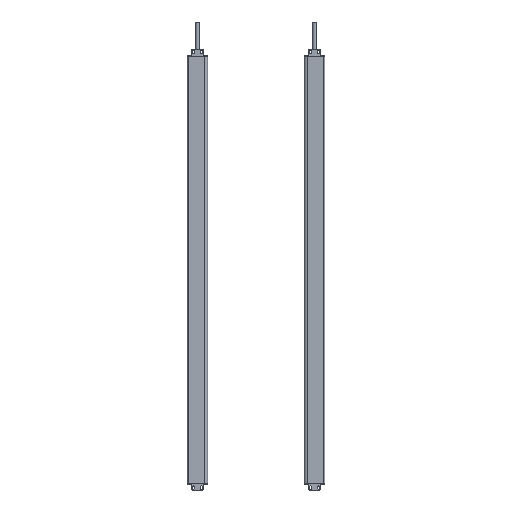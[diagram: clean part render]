
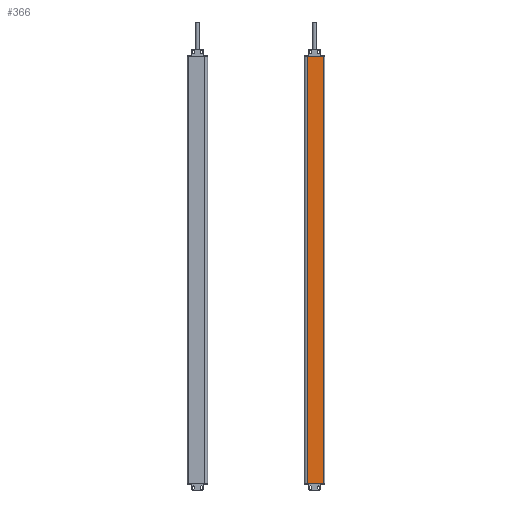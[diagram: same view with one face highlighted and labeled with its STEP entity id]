
A CAD part, front view. The second image highlights one B-rep face of the part: STEP entity #366.
In plain terms, the highlighted planar face has unit normal (0, -1, 0).
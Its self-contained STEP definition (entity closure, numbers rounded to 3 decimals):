
#123=PLANE('',#5869);
#366=ADVANCED_FACE('',(#797),#123,.T.);
#797=FACE_OUTER_BOUND('',#1073,.T.);
#1073=EDGE_LOOP('',(#1780,#1781,#1782,#1783));
#1780=ORIENTED_EDGE('',*,*,#3977,.T.);
#1781=ORIENTED_EDGE('',*,*,#3978,.F.);
#1782=ORIENTED_EDGE('',*,*,#3979,.F.);
#1783=ORIENTED_EDGE('',*,*,#3903,.T.);
#3351=VERTEX_POINT('',#8106);
#3352=VERTEX_POINT('',#8108);
#3421=VERTEX_POINT('',#8253);
#3422=VERTEX_POINT('',#8257);
#3903=EDGE_CURVE('',#3352,#3351,#4726,.T.);
#3977=EDGE_CURVE('',#3351,#3421,#4771,.T.);
#3978=EDGE_CURVE('',#3422,#3421,#4772,.T.);
#3979=EDGE_CURVE('',#3352,#3422,#4773,.T.);
#4726=LINE('',#8107,#5280);
#4771=LINE('',#8254,#5325);
#4772=LINE('',#8256,#5326);
#4773=LINE('',#8258,#5327);
#5280=VECTOR('',#6413,1.);
#5325=VECTOR('',#6522,1.);
#5326=VECTOR('',#6525,1.);
#5327=VECTOR('',#6526,1.);
#5869=AXIS2_PLACEMENT_3D('',#8259,#6527,#6528);
#6413=DIRECTION('',(1.,0.,0.));
#6522=DIRECTION('',(0.,0.,1.));
#6525=DIRECTION('',(1.,0.,0.));
#6526=DIRECTION('',(0.,0.,1.));
#6527=DIRECTION('',(0.,-1.,0.));
#6528=DIRECTION('',(-1.,0.,0.));
#8106=CARTESIAN_POINT('',(3.35,-1.3,-100.));
#8107=CARTESIAN_POINT('',(-21.15,-1.3,-100.));
#8108=CARTESIAN_POINT('',(-21.15,-1.3,-100.));
#8253=CARTESIAN_POINT('',(3.35,-1.3,522.));
#8254=CARTESIAN_POINT('',(3.35,-1.3,-100.));
#8256=CARTESIAN_POINT('',(-4122.897,-1.3,522.));
#8257=CARTESIAN_POINT('',(-21.15,-1.3,522.));
#8258=CARTESIAN_POINT('',(-21.15,-1.3,-100.));
#8259=CARTESIAN_POINT('',(-21.15,-1.3,-100.));
